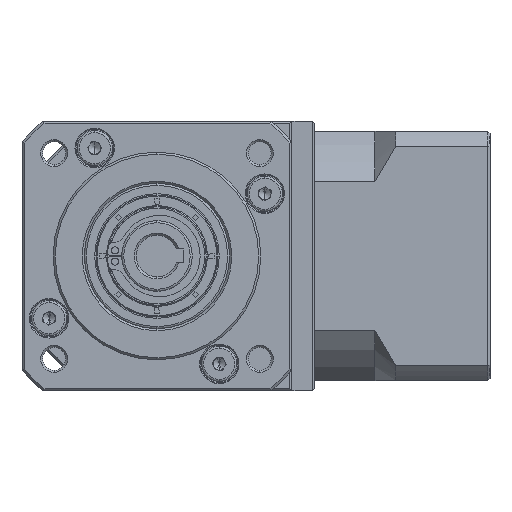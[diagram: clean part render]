
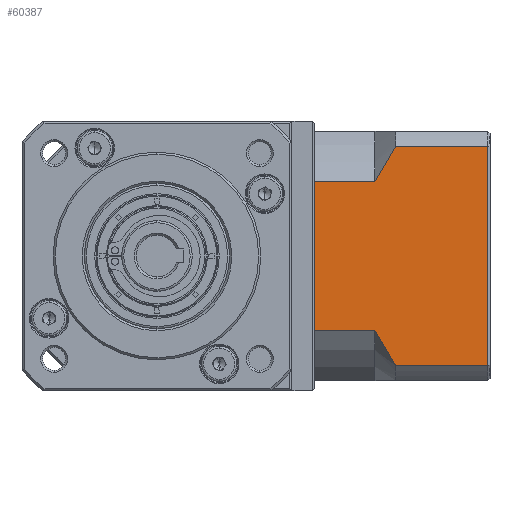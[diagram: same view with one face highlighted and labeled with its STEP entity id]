
A CAD part, left-side view. The second image highlights one B-rep face of the part: STEP entity #60387.
In plain terms, the highlighted planar face has unit normal (-1, 0, 0).
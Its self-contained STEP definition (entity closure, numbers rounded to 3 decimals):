
#4305 = CARTESIAN_POINT ( 'NONE',  ( -27.429, -66.234, -144.01 ) ) ;
#7768 = CARTESIAN_POINT ( 'NONE',  ( -27.429, -70.332, -142.648 ) ) ;
#13489 = DIRECTION ( 'NONE',  ( 1., 0., 0. ) ) ;
#15168 = LINE ( 'NONE', #4305, #44190 ) ;
#19289 = CARTESIAN_POINT ( 'NONE',  ( -27.429, -69.461, -93.834 ) ) ;
#20135 = ORIENTED_EDGE ( 'NONE', *, *, #128166, .T. ) ;
#21515 = DIRECTION ( 'NONE',  ( 0., 0., 1. ) ) ;
#21838 = ORIENTED_EDGE ( 'NONE', *, *, #73002, .F. ) ;
#22615 = VECTOR ( 'NONE', #21515, 1000. ) ;
#25753 = EDGE_CURVE ( 'NONE', #139748, #141641, #146868, .T. ) ;
#27574 = CARTESIAN_POINT ( 'NONE',  ( -27.429, -51.734, -135.581 ) ) ;
#31690 = CARTESIAN_POINT ( 'NONE',  ( -27.429, -66.982, -98.073 ) ) ;
#33518 = VERTEX_POINT ( 'NONE', #65892 ) ;
#34144 = VECTOR ( 'NONE', #61512, 1000. ) ;
#35049 = CARTESIAN_POINT ( 'NONE',  ( -27.429, -66.234, -135.581 ) ) ;
#38245 = AXIS2_PLACEMENT_3D ( 'NONE', #87669, #13489, #100121 ) ;
#39320 = CARTESIAN_POINT ( 'NONE',  ( -27.429, -66.234, -99.525 ) ) ;
#43035 = CARTESIAN_POINT ( 'NONE',  ( -27.429, -71.234, -91.095 ) ) ;
#44190 = VECTOR ( 'NONE', #152677, 1000. ) ;
#48038 = VECTOR ( 'NONE', #98576, 1000. ) ;
#48455 = ORIENTED_EDGE ( 'NONE', *, *, #134003, .T. ) ;
#55480 = LINE ( 'NONE', #70119, #22615 ) ;
#56962 = CARTESIAN_POINT ( 'NONE',  ( -27.429, -66.984, -137.037 ) ) ;
#60387 = ADVANCED_FACE ( 'NONE', ( #64997 ), #110992, .F. ) ;
#61512 = DIRECTION ( 'NONE',  ( 0., 0., -1. ) ) ;
#64481 = CARTESIAN_POINT ( 'NONE',  ( -27.429, -51.734, -99.525 ) ) ;
#64997 = FACE_OUTER_BOUND ( 'NONE', #112970, .T. ) ;
#65892 = CARTESIAN_POINT ( 'NONE',  ( -27.429, -71.234, -144.01 ) ) ;
#70119 = CARTESIAN_POINT ( 'NONE',  ( -27.429, -93.434, -147.553 ) ) ;
#70258 = VERTEX_POINT ( 'NONE', #120635 ) ;
#72234 = ORIENTED_EDGE ( 'NONE', *, *, #99726, .F. ) ;
#73002 = EDGE_CURVE ( 'NONE', #86752, #33518, #15168, .T. ) ;
#73667 = EDGE_CURVE ( 'NONE', #139748, #135978, #123986, .T. ) ;
#74983 = VECTOR ( 'NONE', #146617, 1000. ) ;
#79183 = CARTESIAN_POINT ( 'NONE',  ( -27.429, -93.434, -91.095 ) ) ;
#80094 = CARTESIAN_POINT ( 'NONE',  ( -27.429, -66.234, -99.525 ) ) ;
#81893 = CARTESIAN_POINT ( 'NONE',  ( -27.429, -69.458, -141.268 ) ) ;
#85266 = EDGE_CURVE ( 'NONE', #70258, #152643, #108027, .T. ) ;
#86088 = CARTESIAN_POINT ( 'NONE',  ( -27.429, -66.234, -91.095 ) ) ;
#86752 = VERTEX_POINT ( 'NONE', #117134 ) ;
#87669 = CARTESIAN_POINT ( 'NONE',  ( -27.429, -93.934, -147.553 ) ) ;
#91548 = DIRECTION ( 'NONE',  ( 0., -1., 0. ) ) ;
#93421 = CARTESIAN_POINT ( 'NONE',  ( -27.429, -70.334, -92.455 ) ) ;
#94385 = CARTESIAN_POINT ( 'NONE',  ( -27.429, -71.234, -144.01 ) ) ;
#95072 = B_SPLINE_CURVE_WITH_KNOTS ( 'NONE', 3,
 ( #143687, #56962, #156168, #81893, #7768, #94385 ),
 .UNSPECIFIED., .F., .F.,
 ( 4, 2, 4 ),
 ( 0.1, 0.104, 0.109 ),
 .UNSPECIFIED. ) ;
#96179 = LINE ( 'NONE', #148233, #34144 ) ;
#98576 = DIRECTION ( 'NONE',  ( 0., -1., 0. ) ) ;
#99726 = EDGE_CURVE ( 'NONE', #136539, #135978, #142308, .T. ) ;
#100121 = DIRECTION ( 'NONE',  ( 0., 1., 0. ) ) ;
#103601 = ORIENTED_EDGE ( 'NONE', *, *, #158143, .T. ) ;
#104803 = CARTESIAN_POINT ( 'NONE',  ( -27.429, -71.234, -91.095 ) ) ;
#105431 = VECTOR ( 'NONE', #91548, 1000. ) ;
#105821 = CARTESIAN_POINT ( 'NONE',  ( -27.429, -67.785, -96.642 ) ) ;
#108027 = LINE ( 'NONE', #35049, #74983 ) ;
#110992 = PLANE ( 'NONE',  #38245 ) ;
#112970 = EDGE_LOOP ( 'NONE', ( #21838, #103601, #120207, #152048, #72234, #20135, #116873, #48455 ) ) ;
#116873 = ORIENTED_EDGE ( 'NONE', *, *, #85266, .F. ) ;
#117134 = CARTESIAN_POINT ( 'NONE',  ( -27.429, -93.434, -144.01 ) ) ;
#118331 = CARTESIAN_POINT ( 'NONE',  ( -27.429, -66.234, -99.525 ) ) ;
#120207 = ORIENTED_EDGE ( 'NONE', *, *, #25753, .F. ) ;
#120635 = CARTESIAN_POINT ( 'NONE',  ( -27.429, -66.234, -135.581 ) ) ;
#123986 = B_SPLINE_CURVE_WITH_KNOTS ( 'NONE', 3,
 ( #43035, #93421, #19289, #105821, #31690, #118331 ),
 .UNSPECIFIED., .F., .F.,
 ( 4, 2, 4 ),
 ( 0.052, 0.057, 0.062 ),
 .UNSPECIFIED. ) ;
#128166 = EDGE_CURVE ( 'NONE', #136539, #152643, #96179, .T. ) ;
#134003 = EDGE_CURVE ( 'NONE', #70258, #33518, #95072, .T. ) ;
#135978 = VERTEX_POINT ( 'NONE', #39320 ) ;
#136539 = VERTEX_POINT ( 'NONE', #64481 ) ;
#139748 = VERTEX_POINT ( 'NONE', #104803 ) ;
#141641 = VERTEX_POINT ( 'NONE', #79183 ) ;
#142308 = LINE ( 'NONE', #80094, #105431 ) ;
#143687 = CARTESIAN_POINT ( 'NONE',  ( -27.429, -66.234, -135.581 ) ) ;
#146617 = DIRECTION ( 'NONE',  ( 0., 1., 0. ) ) ;
#146868 = LINE ( 'NONE', #86088, #48038 ) ;
#148233 = CARTESIAN_POINT ( 'NONE',  ( -27.429, -51.734, -147.553 ) ) ;
#152048 = ORIENTED_EDGE ( 'NONE', *, *, #73667, .T. ) ;
#152643 = VERTEX_POINT ( 'NONE', #27574 ) ;
#152677 = DIRECTION ( 'NONE',  ( 0., 1., 0. ) ) ;
#156168 = CARTESIAN_POINT ( 'NONE',  ( -27.429, -67.784, -138.463 ) ) ;
#158143 = EDGE_CURVE ( 'NONE', #86752, #141641, #55480, .T. ) ;
